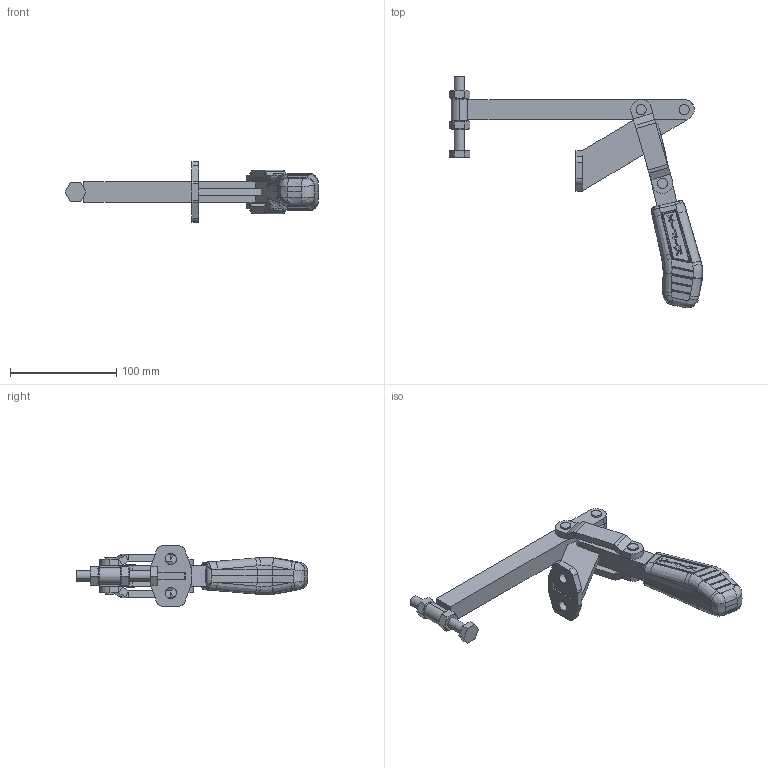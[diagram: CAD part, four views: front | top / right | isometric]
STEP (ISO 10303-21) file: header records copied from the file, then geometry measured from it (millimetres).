
FILE_DESCRIPTION (( 'STEP AP203' ), '1' );
FILE_NAME ('KF-725 F.STEP', '2015-07-16T18:13:24', ( 'Ricardo' ), ( '' ), 'SwSTEP 2.0', 'SolidWorks 2014', '' );
FILE_SCHEMA (( 'CONFIG_CONTROL_DESIGN' ));
Length unit declared in the file: millimetre
Products named in the file (13): 06.50017; 20.20005; 11.50003; 02.10028; 12.50004; 02.10029; PSB-M10; 03.20048; 07.60202; 01.20014; KF-725 F; 08.10048; 06.50016
Assembly tree (16 placements, depth 3):
  KF-725 F
    02.10028
    02.10029
    03.20048
    01.20014
    08.10048  x2
    06.50016  x2
    06.50017  x2
    PSB-M10
      20.20005
      11.50003  x2
      12.50004
    07.60202
Bounding box: 238.86 x 218.01 x 57.2 mm (x, y, z)
Volume: 254192.2 mm3; surface area: 84594 mm2
Topology: 15 solids, 15 shells, 771 faces, 1963 edges, 1230 vertices
Faces by surface type: bspline 271, plane 250, cylinder 157, sphere 52, cone 38, torus 3
Entity records: 29500 total; most frequent: CARTESIAN_POINT 13785, ORIENTED_EDGE 3524, DIRECTION 2138, EDGE_CURVE 1762, VERTEX_POINT 1120, B_SPLINE_CURVE_WITH_KNOTS 851, AXIS2_PLACEMENT_3D 817, EDGE_LOOP 744
